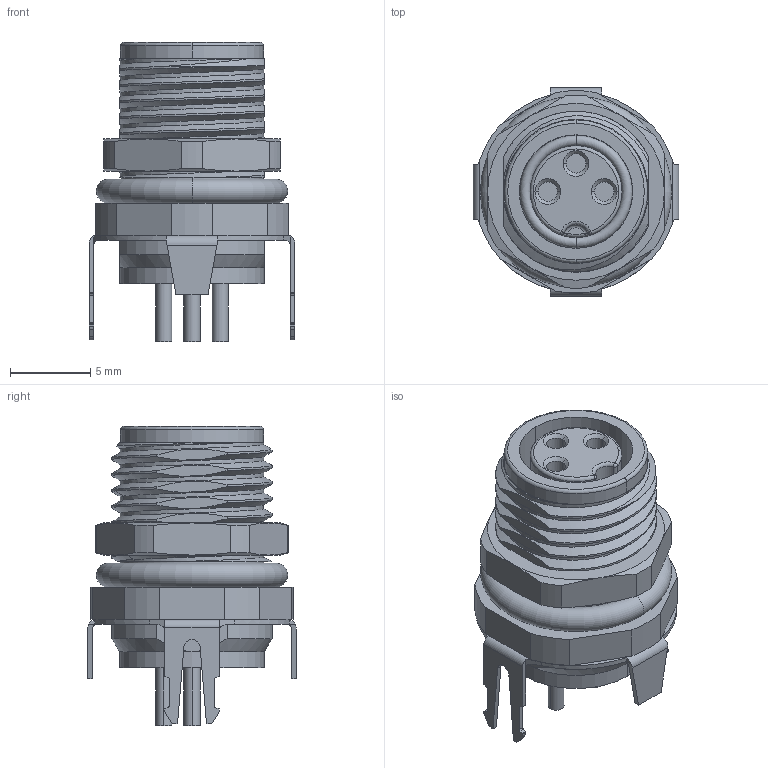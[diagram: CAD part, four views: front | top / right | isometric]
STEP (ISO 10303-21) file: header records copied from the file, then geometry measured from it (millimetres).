
FILE_DESCRIPTION((''),'2;1');
FILE_NAME('C-T4041037031-000','2017-02-06T',('workeradm'),('Tyco Electronics Ltd.'),'CREO PARAMETRIC BY PTC INC, 2016050','CREO PARAMETRIC BY PTC INC, 2016050','');
FILE_SCHEMA(('AUTOMOTIVE_DESIGN { 1 0 10303 214 1 1 1 1 }'));
Length unit declared in the file: millimetre
Products named in the file (1): C-T4041037031-000
Bounding box: 12.8 x 13 x 18.6 mm (x, y, z)
Volume: 1201.8 mm3; surface area: 1329.4 mm2
Topology: 1 solids, 1 shells, 257 faces, 656 edges, 415 vertices
Faces by surface type: plane 118, cylinder 89, cone 23, bspline 15, torus 10, sphere 2
Entity records: 12731 total; most frequent: CARTESIAN_POINT 6476, ORIENTED_EDGE 1312, DIRECTION 1215, EDGE_CURVE 656, AXIS2_PLACEMENT_3D 450, VERTEX_POINT 415, VECTOR 315, LINE 315
